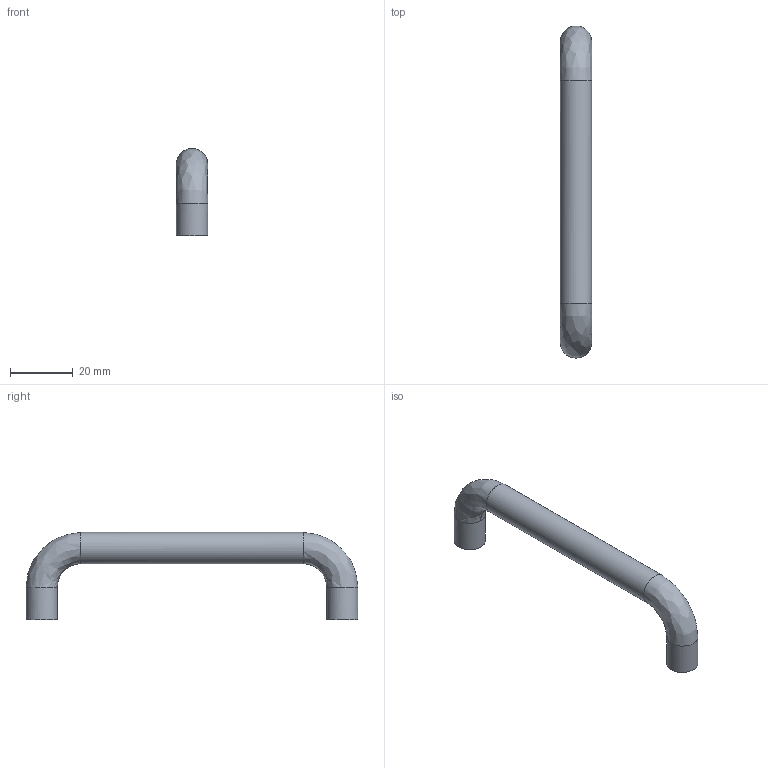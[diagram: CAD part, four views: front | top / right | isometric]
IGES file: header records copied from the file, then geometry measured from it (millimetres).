
Start section: C
Global section: file name: 0287-106.igs; native system: By Siemens PLM Incorporated; preprocessor: XPlus GENERIC/IGES 16.0.42; author: Author; organization: Title; date: 20231211.120700; units: millimetre
Bounding box: 10 x 106 x 27.8 mm (x, y, z)
Surface area: 4594.3 mm2 (no closed solid volume)
Topology: 0 solids, 0 shells, 11 faces, 60 edges, 60 vertices
Faces by surface type: bspline 11
